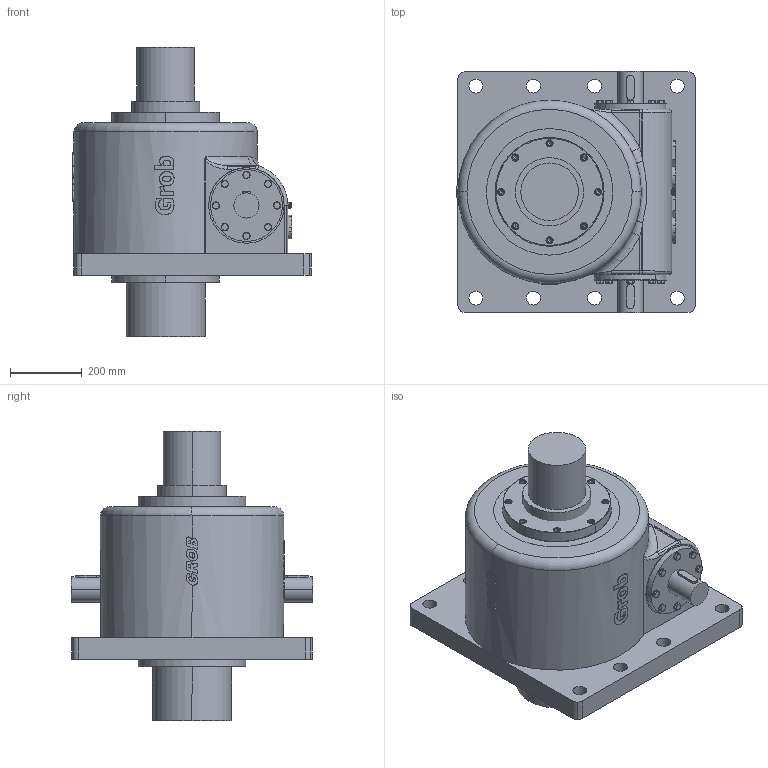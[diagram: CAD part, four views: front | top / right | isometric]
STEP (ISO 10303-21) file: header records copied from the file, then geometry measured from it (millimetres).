
FILE_DESCRIPTION(('STEP AP203'),'1');
FILE_NAME('mc150-gn-f-1f-ge-0100-0000-tr190x24-ab-o_0.stp','2023-12-18T13:34:12',('TraceParts'),('TraceParts S.A.'),'Spatial InterOp 3D',' ',' ');
FILE_SCHEMA(('CONFIG_CONTROL_DESIGN'));
Length unit declared in the file: millimetre
Products named in the file (1): 1
Bounding box: 663 x 671 x 805 mm (x, y, z)
Volume: 143909459.3 mm3; surface area: 3138153.6 mm2
Topology: 72 solids, 72 shells, 3148 faces, 8333 edges, 5426 vertices
Faces by surface type: cylinder 1666, plane 983, cone 306, torus 146, bspline 47
Entity records: 112459 total; most frequent: CARTESIAN_POINT 32772, DIRECTION 17676, ORIENTED_EDGE 16454, EDGE_CURVE 8227, AXIS2_PLACEMENT_3D 7011, VERTEX_POINT 5426, CIRCLE 3890, LINE 3654
